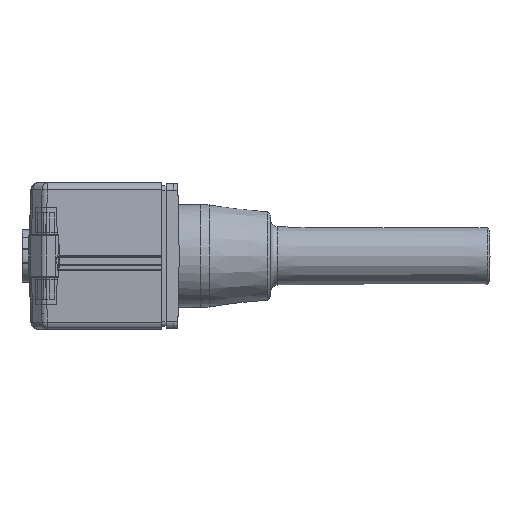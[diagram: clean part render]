
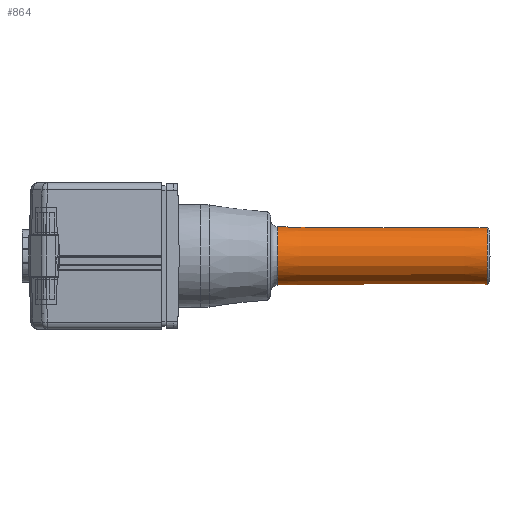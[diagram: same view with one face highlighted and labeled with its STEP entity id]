
A CAD part, left-side view. The second image highlights one B-rep face of the part: STEP entity #864.
In plain terms, the highlighted conical face has half-angle 0.191 degrees and reference radius 1.974 mm.
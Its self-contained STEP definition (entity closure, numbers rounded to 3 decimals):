
#864=ADVANCED_FACE('',(#2111,#2112),#2113,.T.);
#2111=FACE_OUTER_BOUND('',#3960,.T.);
#2112=FACE_BOUND('',#3961,.T.);
#2113=CONICAL_SURFACE('',#3962,1.975,0.003);
#3960=EDGE_LOOP('',(#6830));
#3961=EDGE_LOOP('',(#6831));
#3962=AXIS2_PLACEMENT_3D('',#6832,#6833,#6834);
#6830=ORIENTED_EDGE('',*,*,#11147,.T.);
#6831=ORIENTED_EDGE('',*,*,#11145,.F.);
#6832=CARTESIAN_POINT('',(0.0,-15.099,0.0));
#6833=DIRECTION('',(-0.0,1.0,-0.0));
#6834=DIRECTION('',(1.0,0.0,0.0));
#11145=EDGE_CURVE('',#13448,#13448,#13449,.T.);
#11147=EDGE_CURVE('',#13451,#13451,#13452,.T.);
#13448=VERTEX_POINT('',#16876);
#13449=CIRCLE('',#16877,1.951);
#13451=VERTEX_POINT('',#16879);
#13452=CIRCLE('',#16880,1.998);
#16876=CARTESIAN_POINT('',(-1.951,-22.25,0.));
#16877=AXIS2_PLACEMENT_3D('',#21327,#21328,#21329);
#16879=CARTESIAN_POINT('',(1.998,-7.948,0.0));
#16880=AXIS2_PLACEMENT_3D('',#21330,#21331,#21332);
#21327=CARTESIAN_POINT('',(0.0,-22.25,0.0));
#21328=DIRECTION('',(0.0,-1.0,-0.0));
#21329=DIRECTION('',(-1.0,0.0,0.));
#21330=CARTESIAN_POINT('',(0.0,-7.948,0.0));
#21331=DIRECTION('',(0.0,-1.0,0.0));
#21332=DIRECTION('',(1.0,0.0,0.0));
